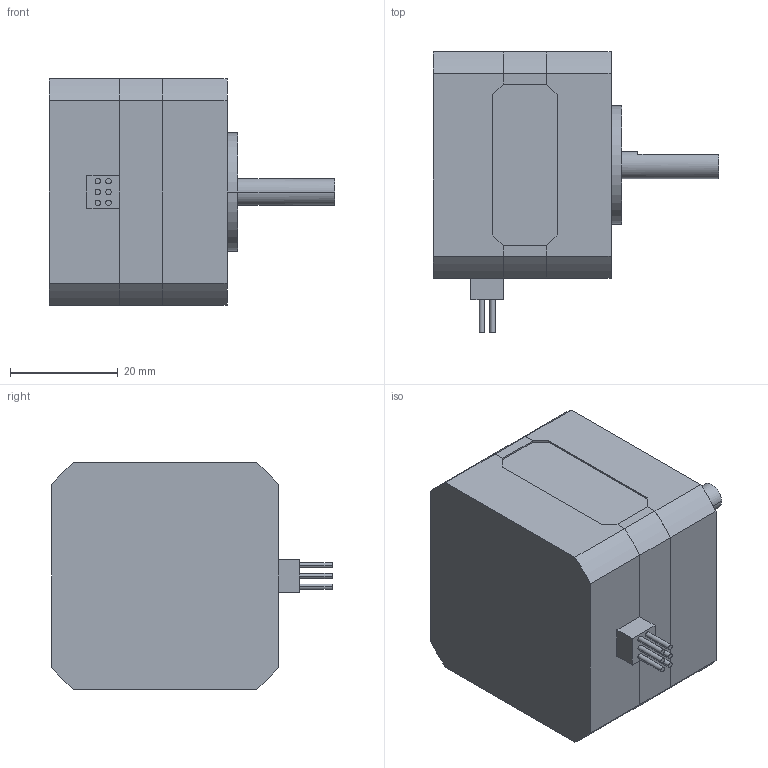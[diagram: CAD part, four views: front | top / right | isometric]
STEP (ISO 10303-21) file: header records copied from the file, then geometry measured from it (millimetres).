
FILE_DESCRIPTION( ( '' ), '1' );
FILE_NAME( 'I:/3D_CAD for Homepage/Vexta/2-Phase/PK243-01-02-03A.stp', '2008-08-07T06:38:59', ( '' ), ( '' ), ' ', ' ', ' ' );
FILE_SCHEMA( ( 'CONFIG_CONTROL_DESIGN' ) );
Length unit declared in the file: millimetre
Products named in the file (1): 1
Bounding box: 53 x 52 x 42 mm (x, y, z)
Volume: 57992.6 mm3; surface area: 9598.8 mm2
Topology: 1 solids, 1 shells, 131 faces, 336 edges, 212 vertices
Faces by surface type: plane 69, cylinder 46, cone 16
Entity records: 3948 total; most frequent: DIRECTION 694, CARTESIAN_POINT 672, ORIENTED_EDGE 656, EDGE_CURVE 328, AXIS2_PLACEMENT_3D 234, LINE 226, VECTOR 226, VERTEX_POINT 212
